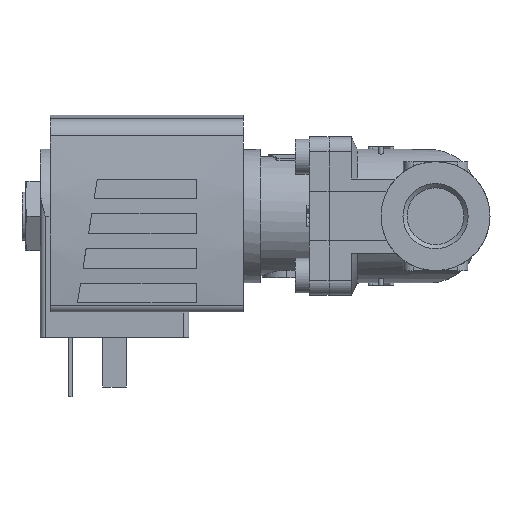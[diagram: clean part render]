
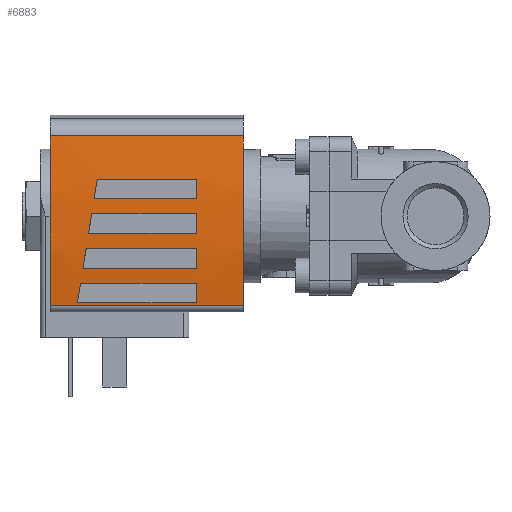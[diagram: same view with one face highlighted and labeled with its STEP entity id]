
A CAD part, left-side view. The second image highlights one B-rep face of the part: STEP entity #6883.
In plain terms, the highlighted cylindrical face has radius 130 mm (diameter 260 mm), a partial arc.
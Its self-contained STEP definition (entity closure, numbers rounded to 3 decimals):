
#164=ELLIPSE('',#7451,131.653,130.);
#165=ELLIPSE('',#7453,131.653,130.);
#166=ELLIPSE('',#7456,131.653,130.);
#167=ELLIPSE('',#7458,131.653,130.);
#246=CYLINDRICAL_SURFACE('',#7450,130.);
#631=LINE('',#10792,#1127);
#633=LINE('',#10812,#1129);
#634=LINE('',#10816,#1130);
#635=LINE('',#10817,#1131);
#636=LINE('',#10822,#1132);
#637=LINE('',#10827,#1133);
#638=LINE('',#10831,#1134);
#639=LINE('',#10835,#1135);
#640=LINE('',#10839,#1136);
#641=LINE('',#10843,#1137);
#1127=VECTOR('',#8860,1000.);
#1129=VECTOR('',#8882,1000.);
#1130=VECTOR('',#8885,1000.);
#1131=VECTOR('',#8886,1000.);
#1132=VECTOR('',#8889,1000.);
#1133=VECTOR('',#8894,1000.);
#1134=VECTOR('',#8897,1000.);
#1135=VECTOR('',#8900,1000.);
#1136=VECTOR('',#8903,1000.);
#1137=VECTOR('',#8906,1000.);
#2503=ORIENTED_EDGE('',*,*,#3536,.F.);
#2504=ORIENTED_EDGE('',*,*,#3537,.F.);
#2505=ORIENTED_EDGE('',*,*,#3538,.F.);
#2506=ORIENTED_EDGE('',*,*,#3539,.F.);
#2507=ORIENTED_EDGE('',*,*,#3540,.F.);
#2508=ORIENTED_EDGE('',*,*,#3541,.F.);
#2509=ORIENTED_EDGE('',*,*,#3542,.F.);
#2510=ORIENTED_EDGE('',*,*,#3543,.F.);
#2511=ORIENTED_EDGE('',*,*,#3544,.T.);
#2512=ORIENTED_EDGE('',*,*,#3545,.F.);
#2513=ORIENTED_EDGE('',*,*,#3530,.F.);
#2514=ORIENTED_EDGE('',*,*,#3527,.T.);
#2515=ORIENTED_EDGE('',*,*,#3546,.F.);
#2516=ORIENTED_EDGE('',*,*,#3547,.F.);
#2517=ORIENTED_EDGE('',*,*,#3548,.F.);
#2518=ORIENTED_EDGE('',*,*,#3549,.F.);
#2519=ORIENTED_EDGE('',*,*,#3550,.F.);
#2520=ORIENTED_EDGE('',*,*,#3551,.F.);
#2521=ORIENTED_EDGE('',*,*,#3552,.F.);
#2522=ORIENTED_EDGE('',*,*,#3553,.F.);
#3527=EDGE_CURVE('',#4146,#4145,#631,.T.);
#3530=EDGE_CURVE('',#4146,#4148,#4424,.T.);
#3536=EDGE_CURVE('',#4152,#4153,#164,.T.);
#3537=EDGE_CURVE('',#4154,#4152,#633,.F.);
#3538=EDGE_CURVE('',#4155,#4154,#4429,.T.);
#3539=EDGE_CURVE('',#4153,#4155,#634,.T.);
#3540=EDGE_CURVE('',#4156,#4157,#635,.T.);
#3541=EDGE_CURVE('',#4158,#4156,#165,.T.);
#3542=EDGE_CURVE('',#4159,#4158,#636,.F.);
#3543=EDGE_CURVE('',#4157,#4159,#4430,.T.);
#3544=EDGE_CURVE('',#4145,#4160,#4431,.T.);
#3545=EDGE_CURVE('',#4148,#4160,#637,.T.);
#3546=EDGE_CURVE('',#4161,#4162,#166,.T.);
#3547=EDGE_CURVE('',#4163,#4161,#638,.F.);
#3548=EDGE_CURVE('',#4164,#4163,#4432,.T.);
#3549=EDGE_CURVE('',#4162,#4164,#639,.T.);
#3550=EDGE_CURVE('',#4165,#4166,#167,.T.);
#3551=EDGE_CURVE('',#4167,#4165,#640,.F.);
#3552=EDGE_CURVE('',#4168,#4167,#4433,.T.);
#3553=EDGE_CURVE('',#4166,#4168,#641,.T.);
#4145=VERTEX_POINT('',#10791);
#4146=VERTEX_POINT('',#10793);
#4148=VERTEX_POINT('',#10799);
#4152=VERTEX_POINT('',#10810);
#4153=VERTEX_POINT('',#10811);
#4154=VERTEX_POINT('',#10813);
#4155=VERTEX_POINT('',#10815);
#4156=VERTEX_POINT('',#10818);
#4157=VERTEX_POINT('',#10819);
#4158=VERTEX_POINT('',#10821);
#4159=VERTEX_POINT('',#10823);
#4160=VERTEX_POINT('',#10826);
#4161=VERTEX_POINT('',#10829);
#4162=VERTEX_POINT('',#10830);
#4163=VERTEX_POINT('',#10832);
#4164=VERTEX_POINT('',#10834);
#4165=VERTEX_POINT('',#10837);
#4166=VERTEX_POINT('',#10838);
#4167=VERTEX_POINT('',#10840);
#4168=VERTEX_POINT('',#10842);
#4424=CIRCLE('',#7445,130.);
#4429=CIRCLE('',#7452,130.);
#4430=CIRCLE('',#7454,130.);
#4431=CIRCLE('',#7455,130.);
#4432=CIRCLE('',#7457,130.);
#4433=CIRCLE('',#7459,130.);
#4742=EDGE_LOOP('',(#2503,#2504,#2505,#2506));
#4743=EDGE_LOOP('',(#2507,#2508,#2509,#2510));
#4744=EDGE_LOOP('',(#2511,#2512,#2513,#2514));
#4745=EDGE_LOOP('',(#2515,#2516,#2517,#2518));
#4746=EDGE_LOOP('',(#2519,#2520,#2521,#2522));
#5129=FACE_BOUND('',#4742,.T.);
#5130=FACE_BOUND('',#4743,.T.);
#5131=FACE_BOUND('',#4744,.T.);
#5132=FACE_BOUND('',#4745,.T.);
#5133=FACE_BOUND('',#4746,.T.);
#6883=ADVANCED_FACE('',(#5129,#5130,#5131,#5132,#5133),#246,.T.);
#7445=AXIS2_PLACEMENT_3D('',#10798,#8867,#8868);
#7450=AXIS2_PLACEMENT_3D('',#10808,#8878,#8879);
#7451=AXIS2_PLACEMENT_3D('',#10809,#8880,#8881);
#7452=AXIS2_PLACEMENT_3D('',#10814,#8883,#8884);
#7453=AXIS2_PLACEMENT_3D('',#10820,#8887,#8888);
#7454=AXIS2_PLACEMENT_3D('',#10824,#8890,#8891);
#7455=AXIS2_PLACEMENT_3D('',#10825,#8892,#8893);
#7456=AXIS2_PLACEMENT_3D('',#10828,#8895,#8896);
#7457=AXIS2_PLACEMENT_3D('',#10833,#8898,#8899);
#7458=AXIS2_PLACEMENT_3D('',#10836,#8901,#8902);
#7459=AXIS2_PLACEMENT_3D('',#10841,#8904,#8905);
#8860=DIRECTION('',(0.,-1.,0.));
#8867=DIRECTION('',(0.,1.,0.));
#8868=DIRECTION('',(1.,0.,0.));
#8878=DIRECTION('',(0.,-1.,0.));
#8879=DIRECTION('',(0.,0.,-1.));
#8880=DIRECTION('',(-0.158,-0.987,0.));
#8881=DIRECTION('',(0.987,-0.158,0.));
#8882=DIRECTION('',(0.,-1.,0.));
#8883=DIRECTION('',(0.,1.,0.));
#8884=DIRECTION('',(0.,0.,1.));
#8885=DIRECTION('',(0.,-1.,0.));
#8886=DIRECTION('',(0.,-1.,0.));
#8887=DIRECTION('',(-0.158,-0.987,0.));
#8888=DIRECTION('',(0.987,-0.158,0.));
#8889=DIRECTION('',(0.,-1.,0.));
#8890=DIRECTION('',(0.,1.,0.));
#8891=DIRECTION('',(0.,0.,1.));
#8892=DIRECTION('',(0.,1.,0.));
#8893=DIRECTION('',(1.,0.,0.));
#8894=DIRECTION('',(0.,-1.,0.));
#8895=DIRECTION('',(-0.158,-0.987,0.));
#8896=DIRECTION('',(0.987,-0.158,0.));
#8897=DIRECTION('',(0.,-1.,0.));
#8898=DIRECTION('',(0.,1.,0.));
#8899=DIRECTION('',(0.,0.,1.));
#8900=DIRECTION('',(0.,-1.,0.));
#8901=DIRECTION('',(-0.158,-0.987,0.));
#8902=DIRECTION('',(0.987,-0.158,0.));
#8903=DIRECTION('',(0.,-1.,0.));
#8904=DIRECTION('',(0.,1.,0.));
#8905=DIRECTION('',(0.,0.,1.));
#8906=DIRECTION('',(0.,-1.,0.));
#10791=CARTESIAN_POINT('',(-18.071,-26.,14.738));
#10792=CARTESIAN_POINT('',(-18.071,13.,14.738));
#10793=CARTESIAN_POINT('',(-18.071,13.,14.738));
#10798=CARTESIAN_POINT('',(0.,13.,-114.));
#10799=CARTESIAN_POINT('',(16.195,13.,14.987));
#10808=CARTESIAN_POINT('',(0.,13.,-114.));
#10809=CARTESIAN_POINT('',(0.,4.7,-114.));
#10810=CARTESIAN_POINT('',(0.5,4.62,15.999));
#10811=CARTESIAN_POINT('',(-3.5,5.26,15.953));
#10812=CARTESIAN_POINT('',(0.5,13.,15.999));
#10813=CARTESIAN_POINT('',(0.5,-16.5,15.999));
#10814=CARTESIAN_POINT('',(0.,-16.5,-114.));
#10815=CARTESIAN_POINT('',(-3.5,-16.5,15.953));
#10816=CARTESIAN_POINT('',(-3.5,13.,15.953));
#10817=CARTESIAN_POINT('',(-17.5,13.,14.817));
#10818=CARTESIAN_POINT('',(-17.5,7.5,14.817));
#10819=CARTESIAN_POINT('',(-17.5,-16.5,14.817));
#10820=CARTESIAN_POINT('',(0.,4.7,-114.));
#10821=CARTESIAN_POINT('',(-13.5,6.86,15.297));
#10822=CARTESIAN_POINT('',(-13.5,13.,15.297));
#10823=CARTESIAN_POINT('',(-13.5,-16.5,15.297));
#10824=CARTESIAN_POINT('',(0.,-16.5,-114.));
#10825=CARTESIAN_POINT('',(0.,-26.,-114.));
#10826=CARTESIAN_POINT('',(16.195,-26.,14.987));
#10827=CARTESIAN_POINT('',(16.195,13.,14.987));
#10828=CARTESIAN_POINT('',(0.,4.7,-114.));
#10829=CARTESIAN_POINT('',(-6.5,5.74,15.837));
#10830=CARTESIAN_POINT('',(-10.5,6.38,15.575));
#10831=CARTESIAN_POINT('',(-6.5,13.,15.837));
#10832=CARTESIAN_POINT('',(-6.5,-16.5,15.837));
#10833=CARTESIAN_POINT('',(0.,-16.5,-114.));
#10834=CARTESIAN_POINT('',(-10.5,-16.5,15.575));
#10835=CARTESIAN_POINT('',(-10.5,13.,15.575));
#10836=CARTESIAN_POINT('',(0.,4.7,-114.));
#10837=CARTESIAN_POINT('',(7.5,3.5,15.783));
#10838=CARTESIAN_POINT('',(3.5,4.14,15.953));
#10839=CARTESIAN_POINT('',(7.5,13.,15.783));
#10840=CARTESIAN_POINT('',(7.5,-16.5,15.783));
#10841=CARTESIAN_POINT('',(0.,-16.5,-114.));
#10842=CARTESIAN_POINT('',(3.5,-16.5,15.953));
#10843=CARTESIAN_POINT('',(3.5,13.,15.953));
